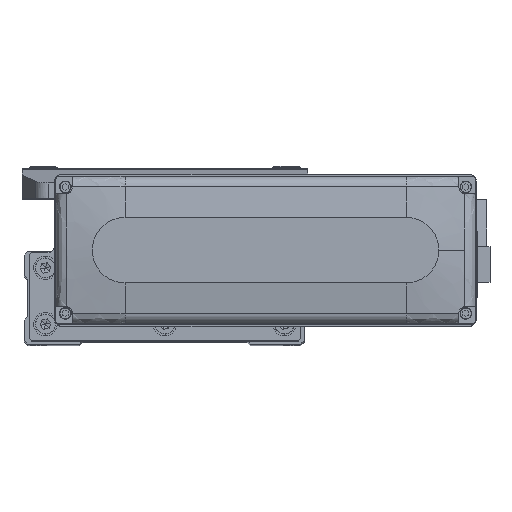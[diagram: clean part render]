
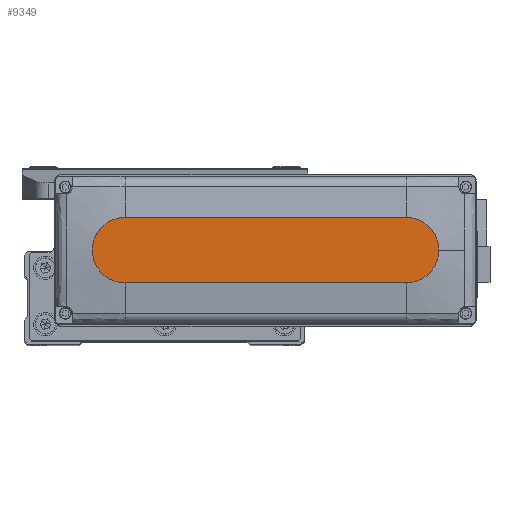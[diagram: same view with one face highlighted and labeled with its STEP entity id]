
A CAD part, top view. The second image highlights one B-rep face of the part: STEP entity #9349.
In plain terms, the highlighted planar face has unit normal (0, 0, 1).
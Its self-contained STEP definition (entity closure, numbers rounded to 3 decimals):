
#374 = VERTEX_POINT ( 'NONE', #6950 ) ;
#1558 = ORIENTED_EDGE ( 'NONE', *, *, #35979, .T. ) ;
#3998 = DIRECTION ( 'NONE',  ( 0., 0., 1. ) ) ;
#4360 = VERTEX_POINT ( 'NONE', #19687 ) ;
#4549 = VECTOR ( 'NONE', #25705, 1000. ) ;
#6925 = EDGE_CURVE ( 'NONE', #28659, #20629, #40351, .T. ) ;
#6950 = CARTESIAN_POINT ( 'NONE',  ( -60., 14., 28.5 ) ) ;
#7247 = FACE_OUTER_BOUND ( 'NONE', #42920, .T. ) ;
#7802 = DIRECTION ( 'NONE',  ( 1., 0., 0. ) ) ;
#8685 = CARTESIAN_POINT ( 'NONE',  ( 74., 0., 28.5 ) ) ;
#9349 = ADVANCED_FACE ( 'NONE', ( #7247 ), #20557, .T. ) ;
#10726 = DIRECTION ( 'NONE',  ( -1., 0., 0. ) ) ;
#11196 = CARTESIAN_POINT ( 'NONE',  ( -60., 0., 28.5 ) ) ;
#11298 = AXIS2_PLACEMENT_3D ( 'NONE', #33839, #3998, #17275 ) ;
#12393 = CARTESIAN_POINT ( 'NONE',  ( -60., -14., 28.5 ) ) ;
#12963 = CARTESIAN_POINT ( 'NONE',  ( 60., 0., 28.5 ) ) ;
#17275 = DIRECTION ( 'NONE',  ( 1., 0., 0. ) ) ;
#19687 = CARTESIAN_POINT ( 'NONE',  ( -60., -14., 28.5 ) ) ;
#20557 = PLANE ( 'NONE',  #11298 ) ;
#20629 = VERTEX_POINT ( 'NONE', #8685 ) ;
#23060 = ORIENTED_EDGE ( 'NONE', *, *, #28868, .T. ) ;
#23275 = VECTOR ( 'NONE', #10726, 1000. ) ;
#24393 = CARTESIAN_POINT ( 'NONE',  ( 60., 0., 28.5 ) ) ;
#24513 = DIRECTION ( 'NONE',  ( 0., 0., 1. ) ) ;
#25705 = DIRECTION ( 'NONE',  ( 1., 0., 0. ) ) ;
#26282 = DIRECTION ( 'NONE',  ( 0., 0., 1. ) ) ;
#26705 = EDGE_CURVE ( 'NONE', #33537, #374, #27322, .T. ) ;
#27179 = AXIS2_PLACEMENT_3D ( 'NONE', #12963, #26282, #39528 ) ;
#27322 = LINE ( 'NONE', #40557, #23275 ) ;
#27331 = CIRCLE ( 'NONE', #32868, 14. ) ;
#27777 = ORIENTED_EDGE ( 'NONE', *, *, #6925, .T. ) ;
#28659 = VERTEX_POINT ( 'NONE', #39395 ) ;
#28868 = EDGE_CURVE ( 'NONE', #4360, #28659, #42213, .T. ) ;
#29001 = CARTESIAN_POINT ( 'NONE',  ( 60., 14., 28.5 ) ) ;
#32868 = AXIS2_PLACEMENT_3D ( 'NONE', #24393, #37656, #7802 ) ;
#33537 = VERTEX_POINT ( 'NONE', #29001 ) ;
#33839 = CARTESIAN_POINT ( 'NONE',  ( 0., 0., 28.5 ) ) ;
#35365 = ORIENTED_EDGE ( 'NONE', *, *, #38076, .T. ) ;
#35979 = EDGE_CURVE ( 'NONE', #374, #4360, #37071, .T. ) ;
#37071 = CIRCLE ( 'NONE', #42598, 14. ) ;
#37656 = DIRECTION ( 'NONE',  ( 0., 0., 1. ) ) ;
#37770 = DIRECTION ( 'NONE',  ( 1., 0., 0. ) ) ;
#38076 = EDGE_CURVE ( 'NONE', #20629, #33537, #27331, .T. ) ;
#38455 = ORIENTED_EDGE ( 'NONE', *, *, #26705, .T. ) ;
#39395 = CARTESIAN_POINT ( 'NONE',  ( 60., -14., 28.5 ) ) ;
#39528 = DIRECTION ( 'NONE',  ( 1., 0., 0. ) ) ;
#40351 = CIRCLE ( 'NONE', #27179, 14. ) ;
#40557 = CARTESIAN_POINT ( 'NONE',  ( -60., 14., 28.5 ) ) ;
#42213 = LINE ( 'NONE', #12393, #4549 ) ;
#42598 = AXIS2_PLACEMENT_3D ( 'NONE', #11196, #24513, #37770 ) ;
#42920 = EDGE_LOOP ( 'NONE', ( #38455, #1558, #23060, #27777, #35365 ) ) ;
